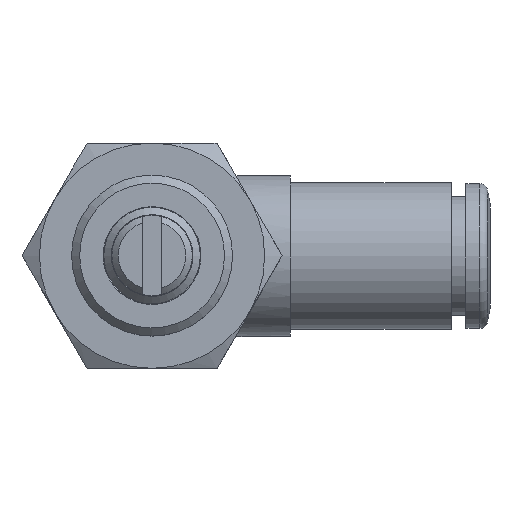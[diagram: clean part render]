
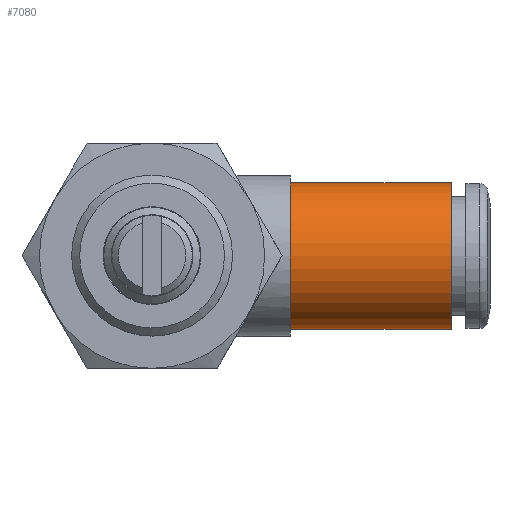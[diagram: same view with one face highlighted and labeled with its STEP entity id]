
A CAD part, top view. The second image highlights one B-rep face of the part: STEP entity #7080.
In plain terms, the highlighted cylindrical face has radius 4.55 mm (diameter 9.1 mm), a full revolution.
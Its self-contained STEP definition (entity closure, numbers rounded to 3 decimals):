
#7080=ADVANCED_FACE('', (#7090,#7100), #7110, .T.);
#20570=AXIS2_PLACEMENT_3D('Ax2Pl3d', #20580, #20590, #20600);
#22010=AXIS2_PLACEMENT_3D('Ax2Pl3d', #22020, #22030, #22040);
#22050=AXIS2_PLACEMENT_3D('Ax2Pl3d', #22060, #22070, #22080);
#20580=CARTESIAN_POINT('HicPkt', (31.625,12.153,
15.112));
#91010=CARTESIAN_POINT('', (31.625,12.153,19.662));
#22020=CARTESIAN_POINT('HicPkt', (21.625,12.153,
15.112));
#22060=CARTESIAN_POINT('HicPkt', (21.625,12.153,
15.112));
#91200=CARTESIAN_POINT('', (21.625,12.153,19.662));
#92650=CIRCLE('Circle', #20570, 4.55);
#92830=CIRCLE('Circle', #22050, 4.55);
#7110=CYLINDRICAL_SURFACE('Zyl', #22010, 4.55);
#20590=DIRECTION('Axis', (-1.,0.,0.)
);
#20600=DIRECTION('RefDirection', (0.,
0.,-1.));
#22030=DIRECTION('Axis', (1.,0.,0.));
#22040=DIRECTION('RefDirection', (0.,0.,-1.));
#22070=DIRECTION('Axis', (-1.,0.,
0.));
#22080=DIRECTION('RefDirection', (0.,
0.,-1.));
#106950=EDGE_CURVE('', #106960, #106960, #92650, .T.);
#107340=EDGE_CURVE('', #107350, #107350, #92830, .T.);
#115760=EDGE_LOOP('Edge_loop', (#115770));
#115780=EDGE_LOOP('Edge_loop', (#115790));
#7100=FACE_BOUND('', #115780, .T.);
#7090=FACE_OUTER_BOUND('Face_outer_bound', #115760, .T.);
#115770=ORIENTED_EDGE('', *, *, #106950, .T.);
#115790=ORIENTED_EDGE('', *, *, #107340, .F.);
#106960=VERTEX_POINT('', #91010);
#107350=VERTEX_POINT('', #91200);
